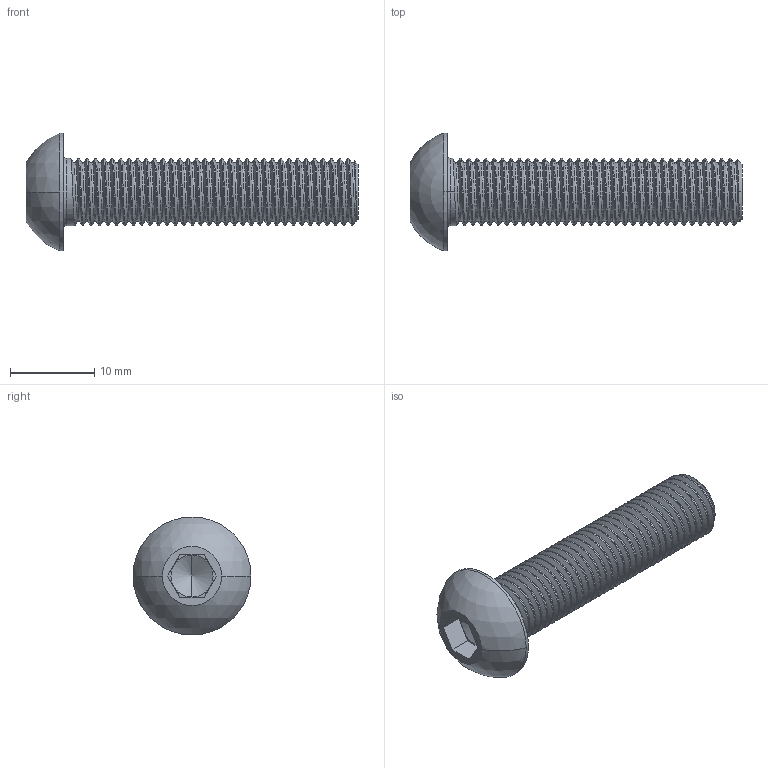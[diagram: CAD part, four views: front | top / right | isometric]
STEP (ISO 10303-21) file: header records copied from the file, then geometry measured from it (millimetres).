
FILE_DESCRIPTION (( 'STEP AP203' ), '1' );
FILE_NAME ('M8x35_ISO7380.STEP', '2025-11-18T06:57:01', ( '' ), ( '' ), 'SwSTEP 2.0', 'SolidWorks 2022', '' );
FILE_SCHEMA (( 'CONFIG_CONTROL_DESIGN' ));
Length unit declared in the file: millimetre
Products named in the file (1): M8x35_ISO7380
Bounding box: 39.4 x 14 x 14 mm (x, y, z)
Volume: 1914.4 mm3; surface area: 1735.3 mm2
Topology: 1 solids, 1 shells, 99 faces, 274 edges, 177 vertices
Faces by surface type: cylinder 71, plane 16, cone 5, bspline 3, torus 2, sphere 2
Entity records: 9129 total; most frequent: CARTESIAN_POINT 6948, ORIENTED_EDGE 544, DIRECTION 349, EDGE_CURVE 272, VERTEX_POINT 177, AXIS2_PLACEMENT_3D 123, LINE 103, VECTOR 103
